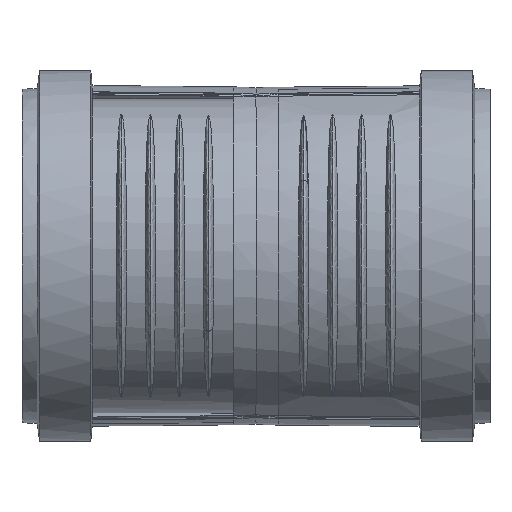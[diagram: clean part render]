
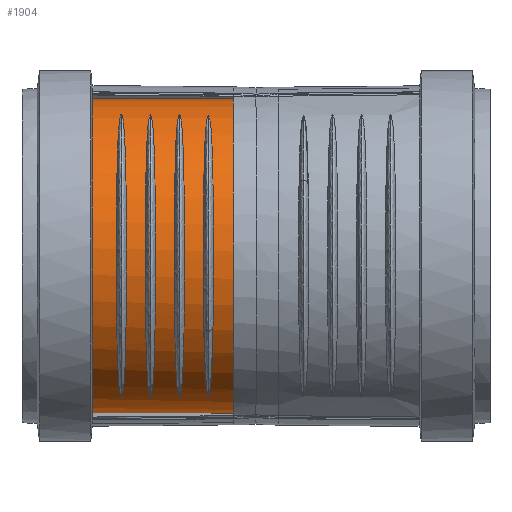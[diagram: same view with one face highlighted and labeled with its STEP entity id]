
A CAD part, top view. The second image highlights one B-rep face of the part: STEP entity #1904.
In plain terms, the highlighted cylindrical face has radius 37.95 mm (diameter 75.9 mm), a full revolution.
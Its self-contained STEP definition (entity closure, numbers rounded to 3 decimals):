
#112=CYLINDRICAL_SURFACE('',#2057,37.95);
#126=FACE_BOUND('',#295,.T.);
#160=FACE_OUTER_BOUND('',#294,.T.);
#294=EDGE_LOOP('',(#1184));
#295=EDGE_LOOP('',(#1185));
#594=CIRCLE('',#2058,37.95);
#595=CIRCLE('',#2059,37.95);
#728=VERTEX_POINT('',#3082);
#729=VERTEX_POINT('',#3084);
#909=EDGE_CURVE('',#728,#728,#594,.T.);
#910=EDGE_CURVE('',#729,#729,#595,.T.);
#1184=ORIENTED_EDGE('',*,*,#909,.T.);
#1185=ORIENTED_EDGE('',*,*,#910,.T.);
#1904=ADVANCED_FACE('',(#160,#126),#112,.F.);
#2057=AXIS2_PLACEMENT_3D('',#3081,#2248,#2249);
#2058=AXIS2_PLACEMENT_3D('',#3083,#2250,#2251);
#2059=AXIS2_PLACEMENT_3D('',#3085,#2252,#2253);
#2248=DIRECTION('center_axis',(-1.,0.,0.));
#2249=DIRECTION('ref_axis',(0.,-0.878,0.479));
#2250=DIRECTION('center_axis',(1.,0.,0.));
#2251=DIRECTION('ref_axis',(0.,-1.,0.));
#2252=DIRECTION('center_axis',(-1.,0.,0.));
#2253=DIRECTION('ref_axis',(0.,-0.878,0.479));
#3081=CARTESIAN_POINT('Origin',(-31.5,0.,0.));
#3082=CARTESIAN_POINT('',(-0.8,33.304,18.194));
#3083=CARTESIAN_POINT('Origin',(-0.8,0.,
0.));
#3084=CARTESIAN_POINT('',(-41.601,33.304,-18.194));
#3085=CARTESIAN_POINT('Origin',(-41.601,0.,0.));
